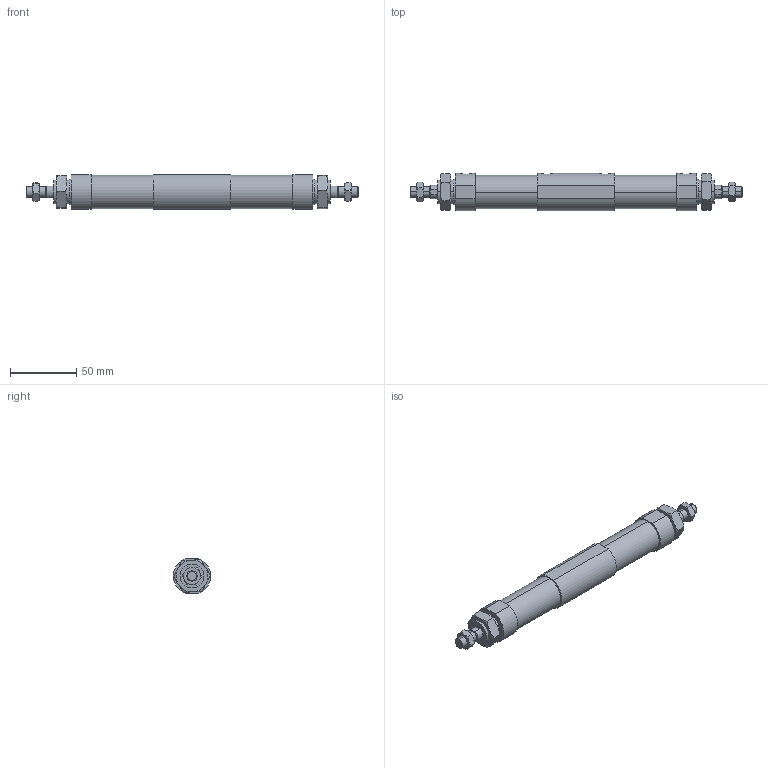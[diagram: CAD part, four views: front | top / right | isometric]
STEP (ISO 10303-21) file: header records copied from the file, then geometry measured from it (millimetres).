
FILE_DESCRIPTION (( 'STEP AP203' ), '1' );
FILE_NAME ('JGD7-20-15-15-N.STEP', '2016-04-19T07:21:30', ( '' ), ( '' ), 'SwSTEP 2.0', 'SolidWorks 2014', '' );
FILE_SCHEMA (( 'CONFIG_CONTROL_DESIGN' ));
Length unit declared in the file: millimetre
Products named in the file (6): M18x1.5-8mm; M8x1.25-5mm; JGD2-20MI; JGLH2-20B; 20-15; JGD7-20-15-15-N
Assembly tree (9 placements, depth 2):
  JGD7-20-15-15-N
    JGLH2-20B  x2
    20-15  x2
    JGD2-20MI
    M8x1.25-5mm  x2
    M18x1.5-8mm  x2
Bounding box: 250 x 28 x 26 mm (x, y, z)
Volume: 110752.8 mm3; surface area: 28951.6 mm2
Topology: 9 solids, 9 shells, 166 faces, 352 edges, 216 vertices
Faces by surface type: plane 68, torus 48, cylinder 42, cone 8
Entity records: 3594 total; most frequent: CARTESIAN_POINT 975, DIRECTION 406, ORIENTED_EDGE 376, EDGE_CURVE 188, AXIS2_PLACEMENT_3D 175, VERTEX_POINT 116, EDGE_LOOP 100, ADVANCED_FACE 89
